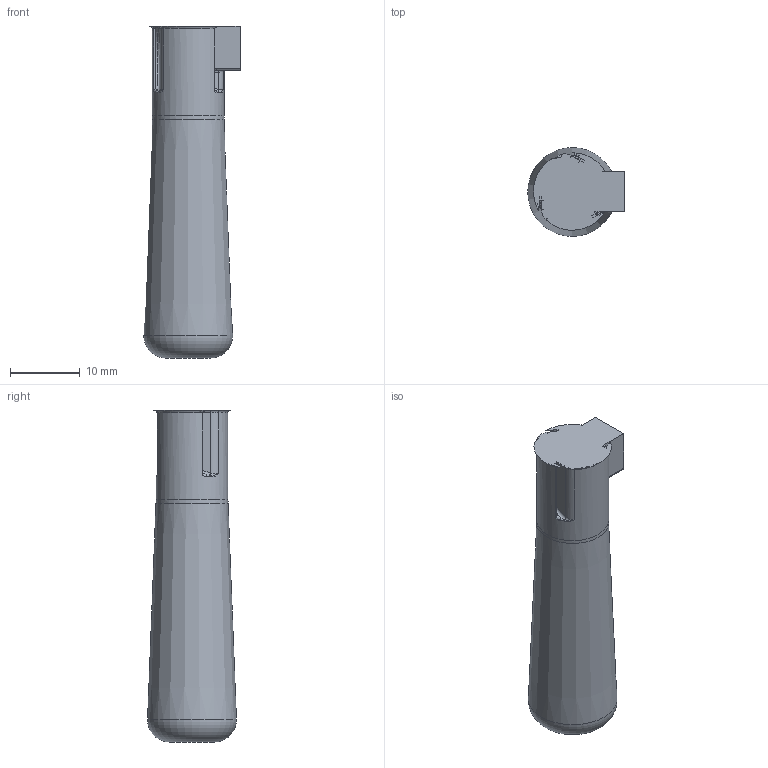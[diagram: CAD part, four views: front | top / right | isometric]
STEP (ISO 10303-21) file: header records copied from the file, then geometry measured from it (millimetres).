
FILE_DESCRIPTION((''),'2;1');
FILE_NAME('C:\Documents and Settings\Inventor\My Documents\Inventor\Owls\LaternCore-V2.stp','2025-10-29T17:09:31',('Inventor'),(''),'Autodesk Inventor 2008','Autodesk Inventor 2008','');
FILE_SCHEMA(('AUTOMOTIVE_DESIGN { 1 0 10303 214 1 1 1 1 }'));
Length unit declared in the file: inch
Products named in the file (1): LaternCore-V2
Bounding box: 13.83 x 12.74 x 47.62 mm (x, y, z)
Volume: 4740.6 mm3; surface area: 2066 mm2
Topology: 1 solids, 1 shells, 69 faces, 175 edges, 104 vertices
Faces by surface type: bspline 21, cylinder 19, plane 15, torus 13, cone 1
Full cylindrical faces by diameter (mm): 10.319 x1
Entity records: 3150 total; most frequent: CARTESIAN_POINT 1626, ORIENTED_EDGE 332, DIRECTION 281, EDGE_CURVE 166, AXIS2_PLACEMENT_3D 120, VERTEX_POINT 102, EDGE_LOOP 74, FACE_OUTER_BOUND 69
